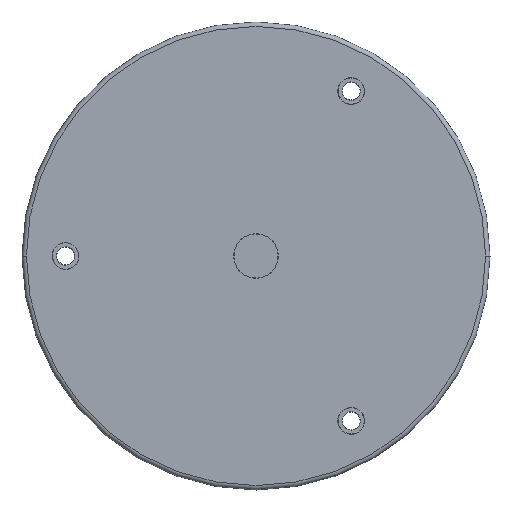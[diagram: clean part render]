
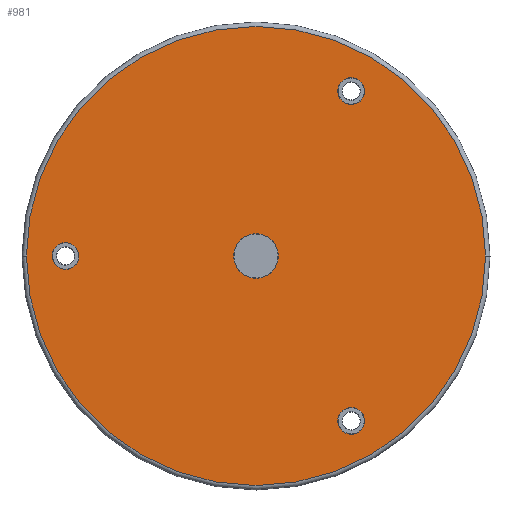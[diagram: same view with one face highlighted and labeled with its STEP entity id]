
A CAD part, front view. The second image highlights one B-rep face of the part: STEP entity #981.
In plain terms, the highlighted planar face has unit normal (0, -1, 0).
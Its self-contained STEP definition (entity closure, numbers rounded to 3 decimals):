
#30 = VERTEX_POINT ( 'NONE', #1365 ) ;
#53 = FACE_BOUND ( 'NONE', #138, .T. ) ;
#77 = DIRECTION ( 'NONE',  ( -1., 0., 0. ) ) ;
#80 = AXIS2_PLACEMENT_3D ( 'NONE', #146, #2013, #347 ) ;
#83 = CIRCLE ( 'NONE', #1486, 5.1 ) ;
#131 = CIRCLE ( 'NONE', #1419, 5.1 ) ;
#138 = EDGE_LOOP ( 'NONE', ( #1168, #290 ) ) ;
#146 = CARTESIAN_POINT ( 'NONE',  ( 0., -1., 0. ) ) ;
#216 = VERTEX_POINT ( 'NONE', #2081 ) ;
#220 = AXIS2_PLACEMENT_3D ( 'NONE', #852, #1984, #1995 ) ;
#245 = CARTESIAN_POINT ( 'NONE',  ( 42.724, -1., 74. ) ) ;
#253 = AXIS2_PLACEMENT_3D ( 'NONE', #245, #383, #1332 ) ;
#255 = EDGE_LOOP ( 'NONE', ( #1296, #667 ) ) ;
#257 = DIRECTION ( 'NONE',  ( -1., 0., 0. ) ) ;
#269 = VERTEX_POINT ( 'NONE', #564 ) ;
#290 = ORIENTED_EDGE ( 'NONE', *, *, #1215, .F. ) ;
#332 = AXIS2_PLACEMENT_3D ( 'NONE', #1120, #2083, #616 ) ;
#342 = EDGE_LOOP ( 'NONE', ( #1015, #1693 ) ) ;
#347 = DIRECTION ( 'NONE',  ( -1., 0., 0. ) ) ;
#349 = ORIENTED_EDGE ( 'NONE', *, *, #1609, .F. ) ;
#383 = DIRECTION ( 'NONE',  ( 0., -1., 0. ) ) ;
#392 = PLANE ( 'NONE',  #851 ) ;
#395 = AXIS2_PLACEMENT_3D ( 'NONE', #1742, #1881, #257 ) ;
#545 = FACE_BOUND ( 'NONE', #1972, .T. ) ;
#554 = CIRCLE ( 'NONE', #777, 5.1 ) ;
#564 = CARTESIAN_POINT ( 'NONE',  ( 37.624, -1., -74. ) ) ;
#577 = EDGE_CURVE ( 'NONE', #2147, #1298, #649, .T. ) ;
#595 = EDGE_LOOP ( 'NONE', ( #1308, #1438 ) ) ;
#602 = CARTESIAN_POINT ( 'NONE',  ( 37.624, -1., 74. ) ) ;
#612 = CIRCLE ( 'NONE', #220, 103. ) ;
#616 = DIRECTION ( 'NONE',  ( -1., 0., 0. ) ) ;
#624 = DIRECTION ( 'NONE',  ( -1., 0., 0. ) ) ;
#649 = CIRCLE ( 'NONE', #253, 5.1 ) ;
#658 = EDGE_CURVE ( 'NONE', #269, #216, #131, .T. ) ;
#661 = DIRECTION ( 'NONE',  ( 0., -1., 0. ) ) ;
#667 = ORIENTED_EDGE ( 'NONE', *, *, #577, .F. ) ;
#697 = DIRECTION ( 'NONE',  ( 0., -1., 0. ) ) ;
#707 = FACE_OUTER_BOUND ( 'NONE', #595, .T. ) ;
#730 = CARTESIAN_POINT ( 'NONE',  ( 0., -1., 0. ) ) ;
#737 = DIRECTION ( 'NONE',  ( -1., 0., 0. ) ) ;
#747 = CARTESIAN_POINT ( 'NONE',  ( -90.548, -1., 0. ) ) ;
#755 = CARTESIAN_POINT ( 'NONE',  ( 42.724, -1., 74. ) ) ;
#777 = AXIS2_PLACEMENT_3D ( 'NONE', #1521, #697, #1197 ) ;
#839 = CIRCLE ( 'NONE', #1280, 5.1 ) ;
#851 = AXIS2_PLACEMENT_3D ( 'NONE', #730, #1392, #1062 ) ;
#852 = CARTESIAN_POINT ( 'NONE',  ( 0., -1., 0. ) ) ;
#913 = DIRECTION ( 'NONE',  ( 0., -1., 0. ) ) ;
#957 = VERTEX_POINT ( 'NONE', #1231 ) ;
#963 = CIRCLE ( 'NONE', #80, 103. ) ;
#981 = ADVANCED_FACE ( 'NONE', ( #545, #1888, #1550, #53, #707 ), #392, .T. ) ;
#998 = EDGE_CURVE ( 'NONE', #216, #269, #554, .T. ) ;
#1015 = ORIENTED_EDGE ( 'NONE', *, *, #658, .F. ) ;
#1050 = CARTESIAN_POINT ( 'NONE',  ( -80.348, -1., 0. ) ) ;
#1061 = CIRCLE ( 'NONE', #395, 5.1 ) ;
#1062 = DIRECTION ( 'NONE',  ( -1., 0., 0. ) ) ;
#1120 = CARTESIAN_POINT ( 'NONE',  ( -85.448, -1., 0. ) ) ;
#1134 = VERTEX_POINT ( 'NONE', #1050 ) ;
#1168 = ORIENTED_EDGE ( 'NONE', *, *, #1505, .F. ) ;
#1197 = DIRECTION ( 'NONE',  ( -1., 0., 0. ) ) ;
#1215 = EDGE_CURVE ( 'NONE', #1134, #2056, #1278, .T. ) ;
#1231 = CARTESIAN_POINT ( 'NONE',  ( 5.1, -1., 0. ) ) ;
#1264 = VERTEX_POINT ( 'NONE', #1437 ) ;
#1278 = CIRCLE ( 'NONE', #332, 5.1 ) ;
#1280 = AXIS2_PLACEMENT_3D ( 'NONE', #1322, #661, #624 ) ;
#1296 = ORIENTED_EDGE ( 'NONE', *, *, #1944, .F. ) ;
#1298 = VERTEX_POINT ( 'NONE', #602 ) ;
#1308 = ORIENTED_EDGE ( 'NONE', *, *, #1423, .T. ) ;
#1322 = CARTESIAN_POINT ( 'NONE',  ( 0., -1., 0. ) ) ;
#1332 = DIRECTION ( 'NONE',  ( -1., 0., 0. ) ) ;
#1365 = CARTESIAN_POINT ( 'NONE',  ( 103., -1., 0. ) ) ;
#1374 = AXIS2_PLACEMENT_3D ( 'NONE', #1730, #2058, #737 ) ;
#1392 = DIRECTION ( 'NONE',  ( 0., -1., 0. ) ) ;
#1419 = AXIS2_PLACEMENT_3D ( 'NONE', #1459, #1928, #77 ) ;
#1423 = EDGE_CURVE ( 'NONE', #1264, #30, #612, .T. ) ;
#1432 = EDGE_CURVE ( 'NONE', #30, #1264, #963, .T. ) ;
#1437 = CARTESIAN_POINT ( 'NONE',  ( -103., -1., 0. ) ) ;
#1438 = ORIENTED_EDGE ( 'NONE', *, *, #1432, .T. ) ;
#1459 = CARTESIAN_POINT ( 'NONE',  ( 42.724, -1., -74. ) ) ;
#1486 = AXIS2_PLACEMENT_3D ( 'NONE', #755, #913, #1900 ) ;
#1492 = VERTEX_POINT ( 'NONE', #1818 ) ;
#1504 = EDGE_CURVE ( 'NONE', #1492, #957, #1061, .T. ) ;
#1505 = EDGE_CURVE ( 'NONE', #2056, #1134, #1762, .T. ) ;
#1521 = CARTESIAN_POINT ( 'NONE',  ( 42.724, -1., -74. ) ) ;
#1550 = FACE_BOUND ( 'NONE', #342, .T. ) ;
#1596 = CARTESIAN_POINT ( 'NONE',  ( 47.824, -1., 74. ) ) ;
#1609 = EDGE_CURVE ( 'NONE', #957, #1492, #839, .T. ) ;
#1693 = ORIENTED_EDGE ( 'NONE', *, *, #998, .F. ) ;
#1730 = CARTESIAN_POINT ( 'NONE',  ( -85.448, -1., 0. ) ) ;
#1742 = CARTESIAN_POINT ( 'NONE',  ( 0., -1., 0. ) ) ;
#1762 = CIRCLE ( 'NONE', #1374, 5.1 ) ;
#1818 = CARTESIAN_POINT ( 'NONE',  ( -5.1, -1., 0. ) ) ;
#1881 = DIRECTION ( 'NONE',  ( 0., -1., 0. ) ) ;
#1888 = FACE_BOUND ( 'NONE', #255, .T. ) ;
#1900 = DIRECTION ( 'NONE',  ( -1., 0., 0. ) ) ;
#1928 = DIRECTION ( 'NONE',  ( 0., -1., 0. ) ) ;
#1944 = EDGE_CURVE ( 'NONE', #1298, #2147, #83, .T. ) ;
#1972 = EDGE_LOOP ( 'NONE', ( #2156, #349 ) ) ;
#1984 = DIRECTION ( 'NONE',  ( 0., -1., 0. ) ) ;
#1995 = DIRECTION ( 'NONE',  ( -1., 0., 0. ) ) ;
#2013 = DIRECTION ( 'NONE',  ( 0., -1., 0. ) ) ;
#2056 = VERTEX_POINT ( 'NONE', #747 ) ;
#2058 = DIRECTION ( 'NONE',  ( 0., -1., 0. ) ) ;
#2081 = CARTESIAN_POINT ( 'NONE',  ( 47.824, -1., -74. ) ) ;
#2083 = DIRECTION ( 'NONE',  ( 0., -1., 0. ) ) ;
#2147 = VERTEX_POINT ( 'NONE', #1596 ) ;
#2156 = ORIENTED_EDGE ( 'NONE', *, *, #1504, .F. ) ;
